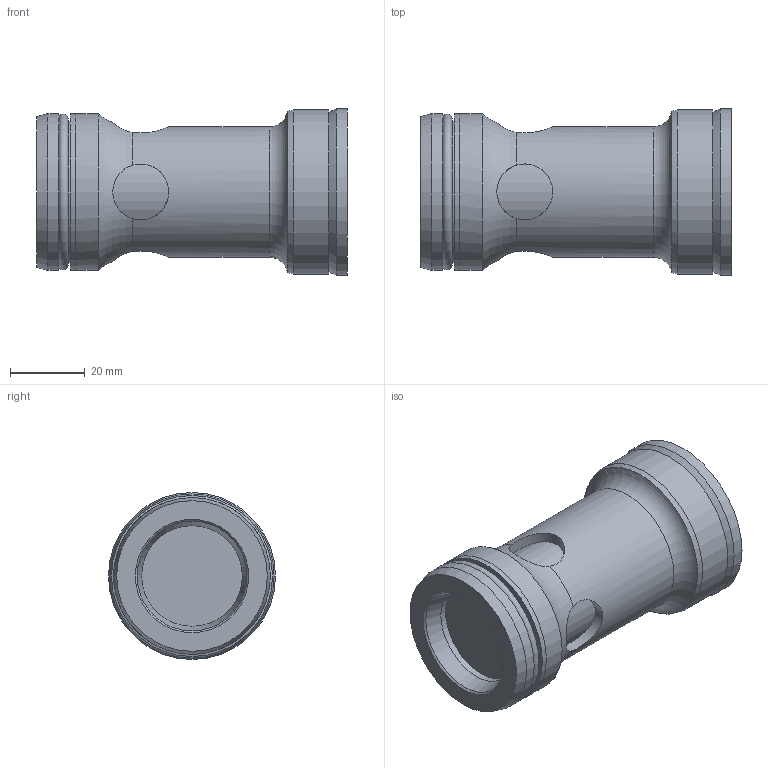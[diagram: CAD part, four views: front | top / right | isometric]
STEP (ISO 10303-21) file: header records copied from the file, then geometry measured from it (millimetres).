
FILE_DESCRIPTION(/* description */ (''),/* implementation_level */ '2;1');
FILE_NAME(/* name */ 'M-SR30插入式单向阀.prt.stp',/* time_stamp */ '2022-03-30T19:10:37+08:00',/* author */ (''),/* organization */ (''),/* preprocessor_version */ 'ST-DEVELOPER v16.7',/* originating_system */ 'SIEMENS PLM Software NX 12.0',/* authorisation */ '');
FILE_SCHEMA (('AUTOMOTIVE_DESIGN { 1 0 10303 214 3 1 1 1 }'));
Length unit declared in the file: millimetre
Products named in the file (1): M-SR30插入式单向阀
Bounding box: 83.3 x 44.8 x 44.8 mm (x, y, z)
Volume: 88803.5 mm3; surface area: 21388.2 mm2
Topology: 4 solids, 4 shells, 40 faces, 87 edges, 55 vertices
Faces by surface type: cylinder 17, plane 13, cone 7, torus 3
Full cylindrical faces by diameter (mm): 12 x1, 15 x4, 21.3 x1, 27 x1, 29 x1, 29.4 x1, 35 x1, 38 x2, 42 x3, 44 x1, 44.8 x1
Entity records: 1065 total; most frequent: CARTESIAN_POINT 292, DIRECTION 156, ORIENTED_EDGE 98, EDGE_LOOP 80, FACE_BOUND 79, AXIS2_PLACEMENT_3D 78, EDGE_CURVE 49, VERTEX_POINT 46
